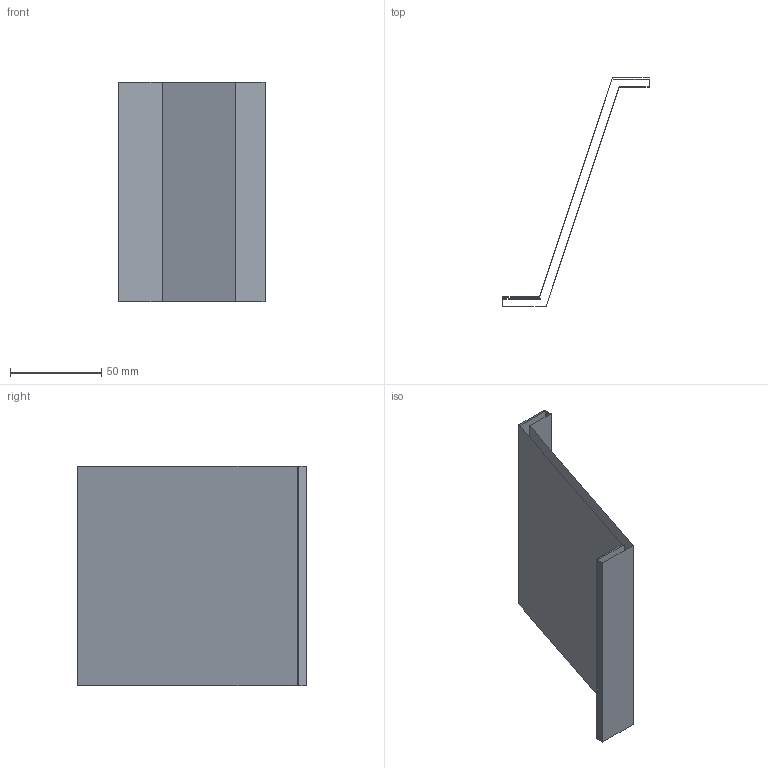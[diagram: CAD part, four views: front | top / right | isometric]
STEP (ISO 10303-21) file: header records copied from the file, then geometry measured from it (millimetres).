
FILE_DESCRIPTION(('CATIA V5 STEP Exchange'),'2;1');
FILE_NAME('C:\_Andres\UNIVERSIDAD\IQS\ASIGNATURAS\DAO\EXF\EXF-16172c\2inicio\Munar_Parra_Ej06_v20.stp','2017-03-05T21:01:26+00:00',('none'),('none'),'CATIA Version 5-6 Release 2014 SP1 HF18','CATIA V5 STEP AP203','none');
FILE_SCHEMA(('CONFIG_CONTROL_DESIGN'));
Length unit declared in the file: millimetre
Products named in the file (1): Munar_Parra_Ej06_v20
Bounding box: 80 x 125 x 120 mm (x, y, z)
Surface area: 45717.9 mm2 (no closed solid volume)
Topology: 0 solids, 2 shells, 10 faces, 42 edges, 36 vertices
Faces by surface type: plane 10
Entity records: 461 total; most frequent: CARTESIAN_POINT 100, DIRECTION 59, ORIENTED_EDGE 40, VECTOR 39, LINE 39, EDGE_CURVE 32, VERTEX_POINT 24, AXIS2_PLACEMENT_3D 11
